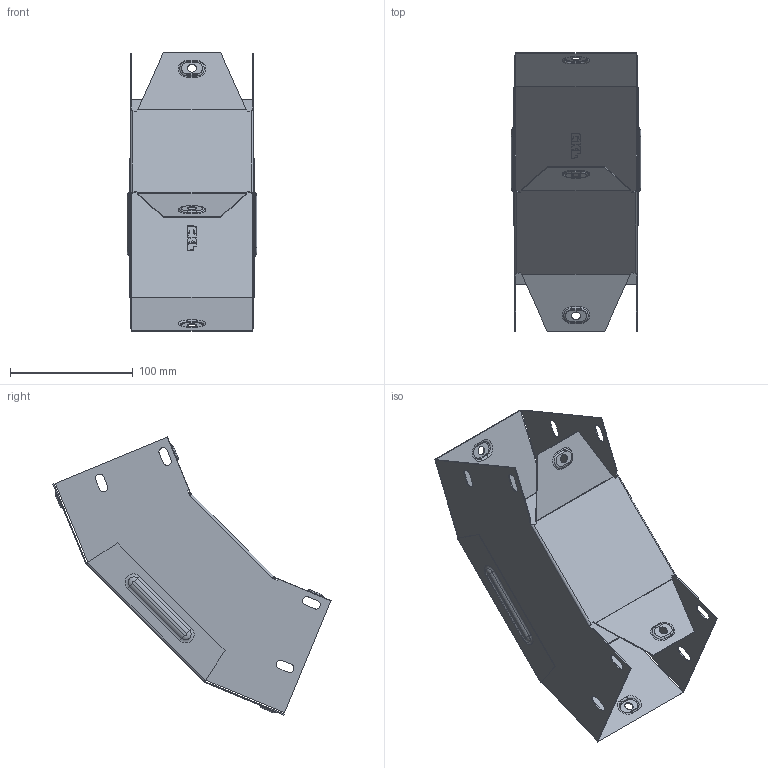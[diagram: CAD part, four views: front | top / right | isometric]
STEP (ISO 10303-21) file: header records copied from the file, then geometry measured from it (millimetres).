
FILE_DESCRIPTION (( 'STEP AP214' ), '1' );
FILE_NAME ('vo45100100_捘.STEP', '2019-06-10T08:17:41', ( '砐錪賧瘔蠈錪 Windows' ), ( '' ), 'SwSTEP 2.0', 'SolidWorks 2018', '' );
FILE_SCHEMA (( 'AUTOMOTIVE_DESIGN' ));
Length unit declared in the file: millimetre
Products named in the file (1): vo45100100_捘
Bounding box: 105.6 x 226.34 x 226.34 mm (x, y, z)
Volume: 77624.5 mm3; surface area: 196248.9 mm2
Topology: 2 solids, 2 shells, 372 faces, 918 edges, 572 vertices
Faces by surface type: plane 173, cylinder 118, torus 64, bspline 17
Entity records: 11622 total; most frequent: CARTESIAN_POINT 2627, DIRECTION 1896, ORIENTED_EDGE 1836, EDGE_CURVE 918, AXIS2_PLACEMENT_3D 672, VERTEX_POINT 572, LINE 552, VECTOR 552
